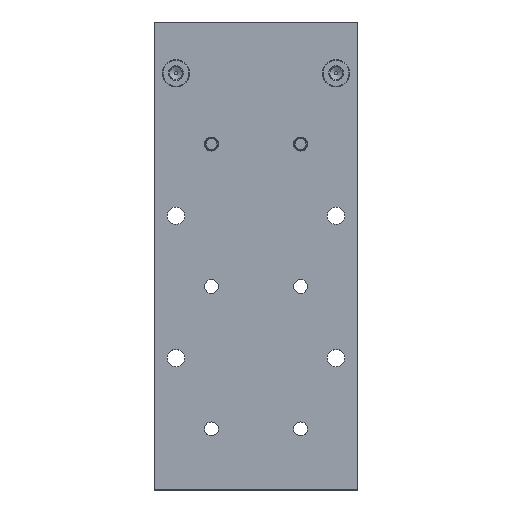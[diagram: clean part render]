
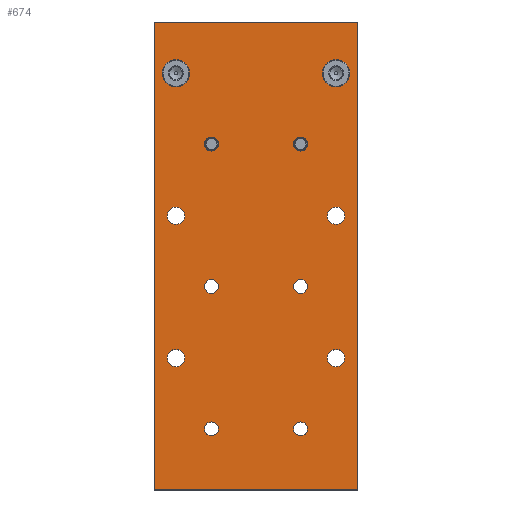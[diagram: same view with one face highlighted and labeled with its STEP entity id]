
A CAD part, top view. The second image highlights one B-rep face of the part: STEP entity #674.
In plain terms, the highlighted planar face has unit normal (0, 0, 1).
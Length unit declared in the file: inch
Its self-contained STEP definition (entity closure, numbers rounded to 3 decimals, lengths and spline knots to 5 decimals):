
#135=CARTESIAN_POINT('',(2.3405,5.12,0.125));
#136=VERTEX_POINT('',#135);
#137=CARTESIAN_POINT('',(2.234,5.12,0.125));
#138=DIRECTION('',(0.0,0.0,-1.0));
#139=DIRECTION('',(-1.0,0.0,0.0));
#140=AXIS2_PLACEMENT_3D('',#137,#138,#139);
#141=CIRCLE('',#140,0.1065);
#142=EDGE_CURVE('',#136,#136,#141,.T.);
#163=CARTESIAN_POINT('',(2.3405,3.37,0.125));
#164=VERTEX_POINT('',#163);
#165=CARTESIAN_POINT('',(2.234,3.37,0.125));
#166=DIRECTION('',(0.0,0.0,-1.0));
#167=DIRECTION('',(-1.0,0.0,0.0));
#168=AXIS2_PLACEMENT_3D('',#165,#166,#167);
#169=CIRCLE('',#168,0.1065);
#170=EDGE_CURVE('',#164,#164,#169,.T.);
#191=CARTESIAN_POINT('',(2.3405,1.62,0.125));
#192=VERTEX_POINT('',#191);
#193=CARTESIAN_POINT('',(2.234,1.62,0.125));
#194=DIRECTION('',(0.0,0.0,-1.0));
#195=DIRECTION('',(-1.0,0.0,0.0));
#196=AXIS2_PLACEMENT_3D('',#193,#194,#195);
#197=CIRCLE('',#196,0.1065);
#198=EDGE_CURVE('',#192,#192,#197,.T.);
#219=CARTESIAN_POINT('',(0.3725,5.12,0.125));
#220=VERTEX_POINT('',#219);
#221=CARTESIAN_POINT('',(0.266,5.12,0.125));
#222=DIRECTION('',(0.0,0.0,-1.0));
#223=DIRECTION('',(-1.0,0.0,0.0));
#224=AXIS2_PLACEMENT_3D('',#221,#222,#223);
#225=CIRCLE('',#224,0.1065);
#226=EDGE_CURVE('',#220,#220,#225,.T.);
#247=CARTESIAN_POINT('',(0.3725,3.37,0.125));
#248=VERTEX_POINT('',#247);
#249=CARTESIAN_POINT('',(0.266,3.37,0.125));
#250=DIRECTION('',(0.0,0.0,-1.0));
#251=DIRECTION('',(-1.0,0.0,0.0));
#252=AXIS2_PLACEMENT_3D('',#249,#250,#251);
#253=CIRCLE('',#252,0.1065);
#254=EDGE_CURVE('',#248,#248,#253,.T.);
#275=CARTESIAN_POINT('',(0.3725,1.62,0.125));
#276=VERTEX_POINT('',#275);
#277=CARTESIAN_POINT('',(0.266,1.62,0.125));
#278=DIRECTION('',(0.0,0.0,-1.0));
#279=DIRECTION('',(-1.0,0.0,0.0));
#280=AXIS2_PLACEMENT_3D('',#277,#278,#279);
#281=CIRCLE('',#280,0.1065);
#282=EDGE_CURVE('',#276,#276,#281,.T.);
#303=CARTESIAN_POINT('',(1.88294,4.25,0.125));
#304=VERTEX_POINT('',#303);
#305=CARTESIAN_POINT('',(1.797,4.25,0.125));
#306=DIRECTION('',(0.0,0.0,-1.0));
#307=DIRECTION('',(-1.0,0.0,0.0));
#308=AXIS2_PLACEMENT_3D('',#305,#306,#307);
#309=CIRCLE('',#308,0.08594);
#310=EDGE_CURVE('',#304,#304,#309,.T.);
#331=CARTESIAN_POINT('',(1.88294,2.5,0.125));
#332=VERTEX_POINT('',#331);
#333=CARTESIAN_POINT('',(1.797,2.5,0.125));
#334=DIRECTION('',(0.0,0.0,-1.0));
#335=DIRECTION('',(-1.0,0.0,0.0));
#336=AXIS2_PLACEMENT_3D('',#333,#334,#335);
#337=CIRCLE('',#336,0.08594);
#338=EDGE_CURVE('',#332,#332,#337,.T.);
#359=CARTESIAN_POINT('',(0.78894,4.25,0.125));
#360=VERTEX_POINT('',#359);
#361=CARTESIAN_POINT('',(0.703,4.25,0.125));
#362=DIRECTION('',(0.0,0.0,-1.0));
#363=DIRECTION('',(-1.0,0.0,0.0));
#364=AXIS2_PLACEMENT_3D('',#361,#362,#363);
#365=CIRCLE('',#364,0.08594);
#366=EDGE_CURVE('',#360,#360,#365,.T.);
#387=CARTESIAN_POINT('',(0.78894,2.5,0.125));
#388=VERTEX_POINT('',#387);
#389=CARTESIAN_POINT('',(0.703,2.5,0.125));
#390=DIRECTION('',(0.0,0.0,-1.0));
#391=DIRECTION('',(-1.0,0.0,0.0));
#392=AXIS2_PLACEMENT_3D('',#389,#390,#391);
#393=CIRCLE('',#392,0.08594);
#394=EDGE_CURVE('',#388,#388,#393,.T.);
#415=CARTESIAN_POINT('',(1.88294,0.75,0.125));
#416=VERTEX_POINT('',#415);
#417=CARTESIAN_POINT('',(1.797,0.75,0.125));
#418=DIRECTION('',(0.0,0.0,-1.0));
#419=DIRECTION('',(-1.0,0.0,0.0));
#420=AXIS2_PLACEMENT_3D('',#417,#418,#419);
#421=CIRCLE('',#420,0.08594);
#422=EDGE_CURVE('',#416,#416,#421,.T.);
#443=CARTESIAN_POINT('',(0.78894,0.75,0.125));
#444=VERTEX_POINT('',#443);
#445=CARTESIAN_POINT('',(0.703,0.75,0.125));
#446=DIRECTION('',(0.0,0.0,-1.0));
#447=DIRECTION('',(-1.0,0.0,0.0));
#448=AXIS2_PLACEMENT_3D('',#445,#446,#447);
#449=CIRCLE('',#448,0.08594);
#450=EDGE_CURVE('',#444,#444,#449,.T.);
#536=CARTESIAN_POINT('',(0.0,5.75,0.125));
#537=VERTEX_POINT('',#536);
#538=CARTESIAN_POINT('',(2.5,5.75,0.125));
#539=VERTEX_POINT('',#538);
#540=CARTESIAN_POINT('',(0.0,5.75,0.125));
#541=DIRECTION('',(1.0,0.0,0.0));
#542=VECTOR('',#541,2.5);
#543=LINE('',#540,#542);
#544=EDGE_CURVE('',#537,#539,#543,.T.);
#567=CARTESIAN_POINT('',(2.5,0.0,0.125));
#568=VERTEX_POINT('',#567);
#569=CARTESIAN_POINT('',(2.5,5.75,0.125));
#570=DIRECTION('',(0.0,-1.0,0.0));
#571=VECTOR('',#570,5.75);
#572=LINE('',#569,#571);
#573=EDGE_CURVE('',#539,#568,#572,.T.);
#591=CARTESIAN_POINT('',(0.0,0.0,0.125));
#592=VERTEX_POINT('',#591);
#593=CARTESIAN_POINT('',(2.5,0.0,0.125));
#594=DIRECTION('',(-1.0,0.0,0.0));
#595=VECTOR('',#594,2.5);
#596=LINE('',#593,#595);
#597=EDGE_CURVE('',#568,#592,#596,.T.);
#615=CARTESIAN_POINT('',(0.0,0.0,0.125));
#616=DIRECTION('',(0.0,1.0,0.0));
#617=VECTOR('',#616,5.75);
#618=LINE('',#615,#617);
#619=EDGE_CURVE('',#592,#537,#618,.T.);
#627=CARTESIAN_POINT('',(1.25,2.875,0.125));
#628=DIRECTION('',(0.0,0.0,1.0));
#629=DIRECTION('',(1.0,0.0,0.0));
#630=AXIS2_PLACEMENT_3D('',#627,#628,#629);
#631=PLANE('',#630);
#632=ORIENTED_EDGE('',*,*,#544,.F.);
#633=ORIENTED_EDGE('',*,*,#619,.F.);
#634=ORIENTED_EDGE('',*,*,#597,.F.);
#635=ORIENTED_EDGE('',*,*,#573,.F.);
#636=EDGE_LOOP('',(#632,#633,#634,#635));
#637=FACE_OUTER_BOUND('',#636,.T.);
#638=ORIENTED_EDGE('',*,*,#142,.T.);
#639=EDGE_LOOP('',(#638));
#640=FACE_BOUND('',#639,.T.);
#641=ORIENTED_EDGE('',*,*,#170,.T.);
#642=EDGE_LOOP('',(#641));
#643=FACE_BOUND('',#642,.T.);
#644=ORIENTED_EDGE('',*,*,#198,.T.);
#645=EDGE_LOOP('',(#644));
#646=FACE_BOUND('',#645,.T.);
#647=ORIENTED_EDGE('',*,*,#226,.T.);
#648=EDGE_LOOP('',(#647));
#649=FACE_BOUND('',#648,.T.);
#650=ORIENTED_EDGE('',*,*,#254,.T.);
#651=EDGE_LOOP('',(#650));
#652=FACE_BOUND('',#651,.T.);
#653=ORIENTED_EDGE('',*,*,#282,.T.);
#654=EDGE_LOOP('',(#653));
#655=FACE_BOUND('',#654,.T.);
#656=ORIENTED_EDGE('',*,*,#310,.T.);
#657=EDGE_LOOP('',(#656));
#658=FACE_BOUND('',#657,.T.);
#659=ORIENTED_EDGE('',*,*,#338,.T.);
#660=EDGE_LOOP('',(#659));
#661=FACE_BOUND('',#660,.T.);
#662=ORIENTED_EDGE('',*,*,#366,.T.);
#663=EDGE_LOOP('',(#662));
#664=FACE_BOUND('',#663,.T.);
#665=ORIENTED_EDGE('',*,*,#394,.T.);
#666=EDGE_LOOP('',(#665));
#667=FACE_BOUND('',#666,.T.);
#668=ORIENTED_EDGE('',*,*,#422,.T.);
#669=EDGE_LOOP('',(#668));
#670=FACE_BOUND('',#669,.T.);
#671=ORIENTED_EDGE('',*,*,#450,.T.);
#672=EDGE_LOOP('',(#671));
#673=FACE_BOUND('',#672,.T.);
#674=ADVANCED_FACE('',(#637,#640,#643,#646,#649,#652,#655,#658,#661,#664,#667,#670,#673),#631,.T.);
